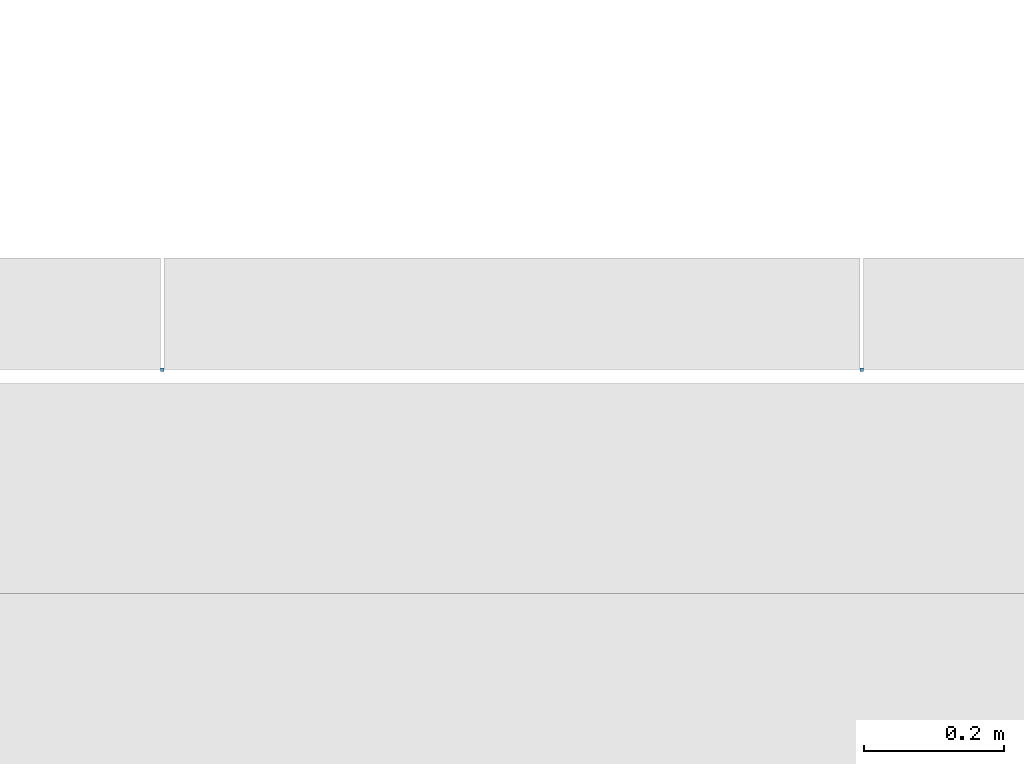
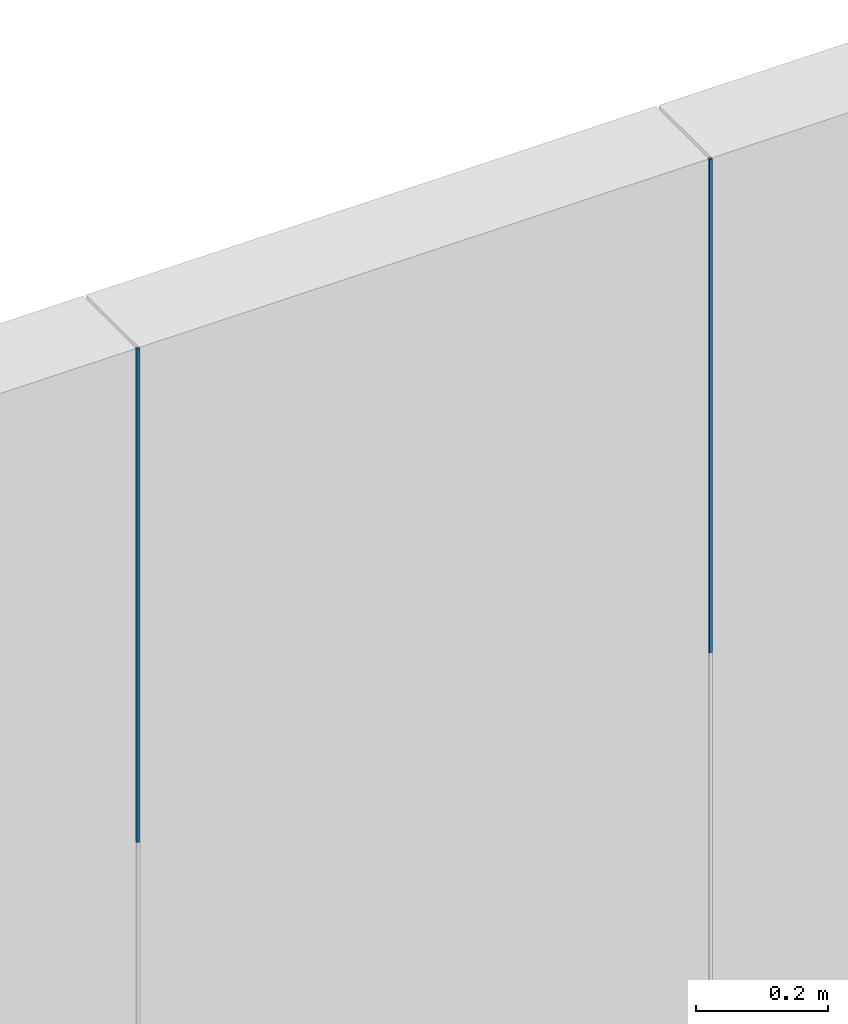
# One storey, part 195 of 302: 2 members, 1 element without a shape of its own.
"""IFC2X3 building model written with IfcOpenShell, lengths in metres."""

from ifc_helpers import new_model, entity, si_unit, converted_unit, derived_unit, direction, frame, frame_2d, origin, place, context, subcontext, project, spatial, rectangle, extrude, source, transform, mapped, material, type_object, type_shapes, element, aggregate, save


model = new_model("IFC2X3")

# Units and contexts
model_context = context("Model", 3, precision=1e-05, world=origin(), true_north=direction((6.12303176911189e-17, 1.0)))
body_context = subcontext(model_context, "Body", "Model", "MODEL_VIEW")
ifc_project = project(units=[si_unit("LENGTHUNIT", "METRE"), si_unit("AREAUNIT", "SQUARE_METRE"), si_unit("VOLUMEUNIT", "CUBIC_METRE"), converted_unit("PLANEANGLEUNIT", "DEGREE", entity("IfcRatioMeasure", 0.0174532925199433), si_unit("PLANEANGLEUNIT", "RADIAN"), dimensions=[0, 0, 0, 0, 0, 0, 0]), si_unit("MASSUNIT", "GRAM", prefix="KILO"), derived_unit("MASSDENSITYUNIT", [(si_unit("MASSUNIT", "GRAM", prefix="KILO"), 1), (si_unit("LENGTHUNIT", "METRE"), -3)]), derived_unit("MOMENTOFINERTIAUNIT", [(si_unit("LENGTHUNIT", "METRE"), 4)]), si_unit("TIMEUNIT", "SECOND"), si_unit("FREQUENCYUNIT", "HERTZ"), si_unit("THERMODYNAMICTEMPERATUREUNIT", "DEGREE_CELSIUS"), derived_unit("THERMALTRANSMITTANCEUNIT", [(si_unit("MASSUNIT", "GRAM", prefix="KILO"), 1), (si_unit("THERMODYNAMICTEMPERATUREUNIT", "KELVIN"), -1), (si_unit("TIMEUNIT", "SECOND"), -3)]), derived_unit("VOLUMETRICFLOWRATEUNIT", [(si_unit("LENGTHUNIT", "METRE"), 3), (si_unit("TIMEUNIT", "SECOND"), -1)]), si_unit("ELECTRICCURRENTUNIT", "AMPERE"), si_unit("ELECTRICVOLTAGEUNIT", "VOLT"), si_unit("POWERUNIT", "WATT"), si_unit("FORCEUNIT", "NEWTON", prefix="KILO"), si_unit("ILLUMINANCEUNIT", "LUX"), si_unit("LUMINOUSFLUXUNIT", "LUMEN"), si_unit("LUMINOUSINTENSITYUNIT", "CANDELA"), derived_unit("USERDEFINED", [(si_unit("MASSUNIT", "GRAM", prefix="KILO"), -1), (si_unit("LENGTHUNIT", "METRE"), -2), (si_unit("TIMEUNIT", "SECOND"), 3), (si_unit("LUMINOUSFLUXUNIT", "LUMEN"), 1)]), derived_unit("LINEARVELOCITYUNIT", [(si_unit("LENGTHUNIT", "METRE"), 1), (si_unit("TIMEUNIT", "SECOND"), -1)]), si_unit("PRESSUREUNIT", "PASCAL"), derived_unit("USERDEFINED", [(si_unit("LENGTHUNIT", "METRE"), -2), (si_unit("MASSUNIT", "GRAM", prefix="KILO"), 1), (si_unit("TIMEUNIT", "SECOND"), -2)]), derived_unit("LINEARFORCEUNIT", [(si_unit("MASSUNIT", "GRAM", prefix="KILO"), 1), (si_unit("LENGTHUNIT", "METRE"), 1), (si_unit("TIMEUNIT", "SECOND"), -2), (si_unit("LENGTHUNIT", "METRE"), -1)]), derived_unit("PLANARFORCEUNIT", [(si_unit("MASSUNIT", "GRAM", prefix="KILO"), 1), (si_unit("LENGTHUNIT", "METRE"), 1), (si_unit("TIMEUNIT", "SECOND"), -2), (si_unit("LENGTHUNIT", "METRE"), -2)])], contexts=[model_context])

# Site, building, storey
site_placement = place(None, origin())
site = spatial("IfcSite", under=ifc_project, at=site_placement, Name="Default", CompositionType="ELEMENT")
building_placement = place(site_placement, origin())
building = spatial("IfcBuilding", under=site, at=building_placement, CompositionType="ELEMENT")
storey_placement = place(building_placement, frame((0.0, 0.0, -1.3)))
storey = spatial("IfcBuildingStorey", under=building, at=storey_placement, Name="00_EG", CompositionType="ELEMENT", Elevation=-1.3)

# Curtain wall, members
curtain_wall_type = type_object("IfcCurtainWallType", Name="Fassade:Curtain Wall 1", PredefinedType="NOTDEFINED")
curtain_wall_placement = place(storey_placement, frame((0.0, 0.0, 1.3)))
curtain_wall = element("IfcCurtainWall", 1, at=curtain_wall_placement, inside=storey, type_object=curtain_wall_type, Name="Fassade:Curtain Wall 1", ObjectType="Fassade:Curtain Wall 1")
ifc_material = material(Name="Aluminium")
member_type = type_object("IfcMemberType", Name="Rectangular Mullion:Paneele Spalt", PredefinedType="MULLION", material=ifc_material)
shared_shape = source(origin(), body_context, "Body", "SweptSolid", [
    extrude(rectangle(XDim=0.005, YDim=0.005, at=frame_2d((0.0, -6.50521303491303e-19), x_axis=(1.0, 0.0))), frame((0.0, 0.0, -0.911252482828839), z_axis=(0.0, 0.0, 1.0), x_axis=(0.0, -1.0, 0.0)), (0.0, 0.0, 1.0), 0.911252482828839),
])
type_shapes(member_type, [shared_shape])
member_1_placement = place(storey_placement, frame((-223.610111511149, 45.578088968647, 10.2096475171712), z_axis=(0.0, 0.0, -1.0), x_axis=(-1.0, 0.0, 0.0)))
member_1 = element("IfcMember", 2, at=member_1_placement, type_object=member_type, material=ifc_material, Name="Rectangular Mullion:Paneele Spalt", ObjectType="Rectangular Mullion:Paneele Spalt", context=body_context, shape_type="MappedRepresentation", body=[
    mapped(shared_shape, transform((0.0, 0.0, 0.0), scale=1.0)),
])
member_2_placement = place(storey_placement, frame((-224.610111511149, 45.578088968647, 10.2096475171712), z_axis=(0.0, 0.0, -1.0), x_axis=(-1.0, 0.0, 0.0)))
member_2 = element("IfcMember", 3, at=member_2_placement, type_object=member_type, material=ifc_material, Name="Rectangular Mullion:Paneele Spalt", ObjectType="Rectangular Mullion:Paneele Spalt", context=body_context, shape_type="MappedRepresentation", body=[
    mapped(shared_shape, transform((0.0, 0.0, 0.0), scale=1.0)),
])
aggregate(curtain_wall, [member_1, member_2])

save(model, "model.ifc")
